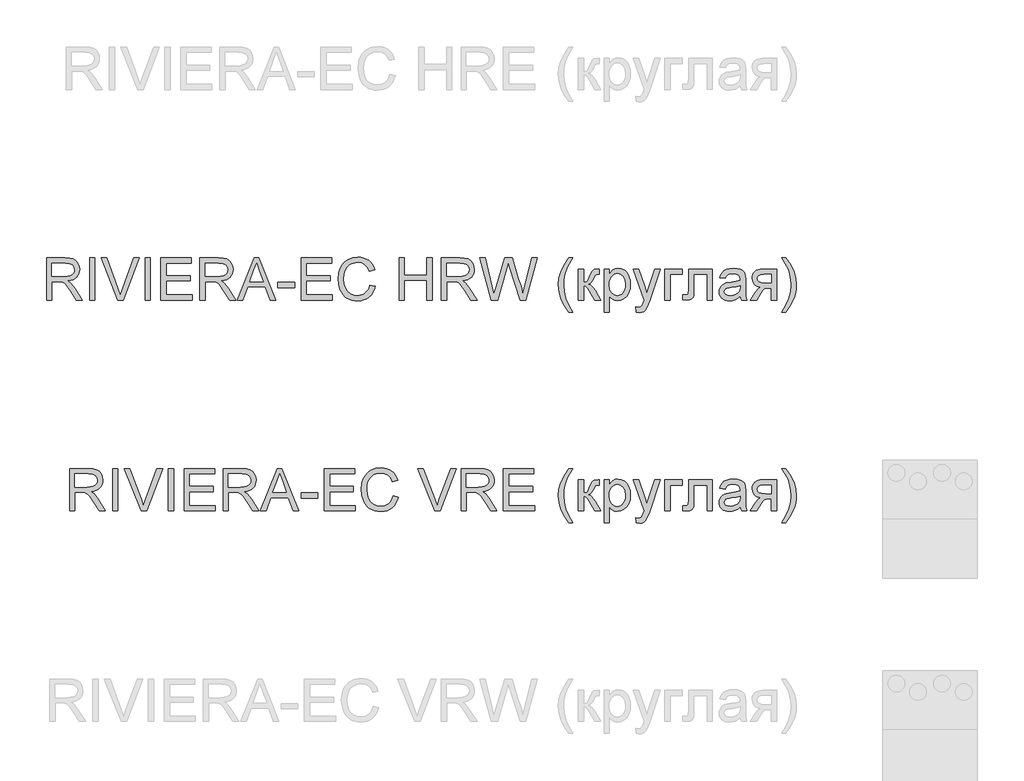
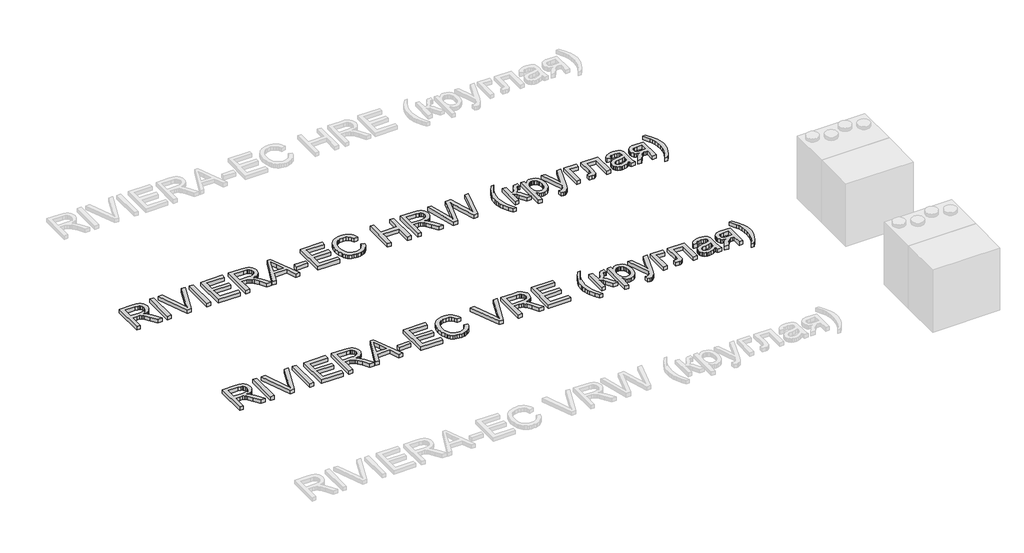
# One storey, part 3 of 28: 2 proxies.
"""IFC4 building model written with IfcOpenShell, lengths in millimetres."""

from ifc_helpers import new_model, si_unit, origin, origin_with_axes, place, context, project, spatial, polyline, outline, extrude, element, save

model = new_model("IFC4")

# Units and contexts
model_context = context("Model", 3, world=origin())
ifc_project = project(units=[si_unit("LENGTHUNIT", "METRE", prefix="MILLI")], contexts=[model_context])

# Site, building, storey
site = spatial("IfcSite", under=ifc_project)
building = spatial("IfcBuilding", under=site)
storey = spatial("IfcBuildingStorey", under=building, Name="Уровень 1", Elevation=0.0)

# Proxies
placement = place(None, origin())
element("IfcBuildingElementProxy", 1, Name="400 мм Arial", ObjectType="400 мм Arial", at=placement, inside=storey, context=model_context, shape_type="SweptSolid", body=[
    extrude(outline(polyline([(-29067.2775729, -16468.7253035), (-29067.2775729, -16066.9000629), (-28894.1277805, -16066.9000629), (-28847.5907081, -16069.6101269), (-28813.7333018, -16077.740319), (-28788.9871062, -16092.7499044), (-28769.7836661, -16116.0981484), (-28757.4596192, -16145.0504614), (-28753.3516036, -16176.872254), (-28755.0530579, -16197.5104339), (-28760.1574205, -16216.4563566), (-28768.6646917, -16233.7100222), (-28780.5748713, -16249.2714306), (-28796.0412435, -16262.6439411), (-28815.2170925, -16273.3309131), (-28838.1024183, -16281.3323465), (-28864.6972208, -16286.6482413), (-28836.149578, -16308.1325498), (-28795.4373039, -16359.8322329), (-28728.4337298, -16468.7253035), (-28786.8043397, -16468.7253035), (-28839.092634, -16385.4368198), (-28876.8618521, -16330.3035714), (-28890.9026816, -16314.2271282), (-28903.3984067, -16304.2575262), (-28927.286211, -16294.6925943), (-28956.422465, -16292.9267607), (-29017.0494178, -16292.9267607), (-29017.0494178, -16468.7253035), (-29067.2775729, -16468.7253035)]), holes=[polyline([(-29017.0494178, -16242.6986056), (-28904.6246801, -16242.6986056), (-28872.3369036, -16240.9205093), (-28847.2841397, -16235.5862204), (-28828.4240561, -16226.3401196), (-28814.7143204, -16212.8265876), (-28806.3633991, -16196.4803643), (-28803.5797587, -16178.7361894), (-28808.8895222, -16154.2352485), (-28824.8188126, -16134.4922481), (-28836.9803782, -16126.8954849), (-28852.2260212, -16121.4692255), (-28891.9695394, -16117.1282179), (-29017.0494178, -16117.1282179), (-29017.0494178, -16242.6986056)])]), origin_with_axes(), (0.0, 0.0, 1.0), 50.0),
    extrude(outline(polyline([(-28659.1738129, -16468.7253035), (-28659.1738129, -16066.9000629), (-28608.9456578, -16066.9000629), (-28608.9456578, -16468.7253035), (-28659.1738129, -16468.7253035)])), origin_with_axes(), (0.0, 0.0, 1.0), 50.0),
    extrude(outline(polyline([(-28389.7860905, -16468.7253035), (-28549.6921311, -16066.9000629), (-28495.9323089, -16066.9000629), (-28388.9031737, -16356.3986676), (-28367.2226615, -16421.6364081), (-28345.8364548, -16356.3986676), (-28238.5130141, -16066.9000629), (-28184.7531919, -16066.9000629), (-28337.8902037, -16468.7253035), (-28389.7860905, -16468.7253035)])), origin_with_axes(), (0.0, 0.0, 1.0), 50.0),
    extrude(outline(polyline([(-28131.7781846, -16468.7253035), (-28131.7781846, -16066.9000629), (-28081.5500295, -16066.9000629), (-28081.5500295, -16468.7253035), (-28131.7781846, -16468.7253035)])), origin_with_axes(), (0.0, 0.0, 1.0), 50.0),
    extrude(outline(polyline([(-27981.0937194, -16468.7253035), (-27981.0937194, -16066.9000629), (-27692.2818277, -16066.9000629), (-27692.2818277, -16117.1282179), (-27930.8655643, -16117.1282179), (-27930.8655643, -16236.4200862), (-27704.8388664, -16236.4200862), (-27704.8388664, -16286.6482413), (-27930.8655643, -16286.6482413), (-27930.8655643, -16418.4971484), (-27686.0033083, -16418.4971484), (-27686.0033083, -16468.7253035), (-27981.0937194, -16468.7253035)])), origin_with_axes(), (0.0, 0.0, 1.0), 50.0),
    extrude(outline(polyline([(-27610.6610757, -16468.7253035), (-27610.6610757, -16066.9000629), (-27437.5112833, -16066.9000629), (-27390.9742109, -16069.6101269), (-27357.1168046, -16077.740319), (-27332.3706091, -16092.7499044), (-27313.1671689, -16116.0981484), (-27300.8431221, -16145.0504614), (-27296.7351065, -16176.872254), (-27298.4365607, -16197.5104339), (-27303.5409234, -16216.4563566), (-27312.0481945, -16233.7100222), (-27323.9583741, -16249.2714306), (-27339.4247463, -16262.6439411), (-27358.6005953, -16273.3309131), (-27381.4859211, -16281.3323465), (-27408.0807237, -16286.6482413), (-27379.5330808, -16308.1325498), (-27338.8208067, -16359.8322329), (-27271.8172327, -16468.7253035), (-27330.1878426, -16468.7253035), (-27382.4761368, -16385.4368198), (-27420.245355, -16330.3035714), (-27434.2861845, -16314.2271282), (-27446.7819096, -16304.2575262), (-27470.6697138, -16294.6925943), (-27499.8059678, -16292.9267607), (-27560.4329206, -16292.9267607), (-27560.4329206, -16468.7253035), (-27610.6610757, -16468.7253035)]), holes=[polyline([(-27560.4329206, -16242.6986056), (-27448.0081829, -16242.6986056), (-27415.7204064, -16240.9205093), (-27390.6676426, -16235.5862204), (-27371.8075589, -16226.3401196), (-27358.0978233, -16212.8265876), (-27349.746902, -16196.4803643), (-27346.9632615, -16178.7361894), (-27352.273025, -16154.2352485), (-27368.2023154, -16134.4922481), (-27380.363881, -16126.8954849), (-27395.609524, -16121.4692255), (-27435.3530422, -16117.1282179), (-27560.4329206, -16117.1282179), (-27560.4329206, -16242.6986056)])]), origin_with_axes(), (0.0, 0.0, 1.0), 50.0),
    extrude(outline(polyline([(-27255.6304249, -16468.7253035), (-27095.233875, -16066.9000629), (-27052.4614617, -16066.9000629), (-26892.0649118, -16468.7253035), (-26945.1380209, -16468.7253035), (-26991.1477958, -16343.1549158), (-27156.6456427, -16343.1549158), (-27202.5573157, -16468.7253035), (-27255.6304249, -16468.7253035)]), holes=[polyline([(-27138.202492, -16292.9267607), (-27009.4928446, -16292.9267607), (-27045.692433, -16194.1381823), (-27073.8476683, -16117.1282179), (-27098.863644, -16185.5052181), (-27138.202492, -16292.9267607)])]), origin_with_axes(), (0.0, 0.0, 1.0), 50.0),
    extrude(outline(polyline([(-26869.7957883, -16349.4334352), (-26869.7957883, -16299.2052801), (-26712.8328037, -16299.2052801), (-26712.8328037, -16349.4334352), (-26869.7957883, -16349.4334352)])), origin_with_axes(), (0.0, 0.0, 1.0), 50.0),
    extrude(outline(polyline([(-26650.0476099, -16468.7253035), (-26650.0476099, -16066.9000629), (-26361.2357182, -16066.9000629), (-26361.2357182, -16117.1282179), (-26599.8194548, -16117.1282179), (-26599.8194548, -16236.4200862), (-26373.792757, -16236.4200862), (-26373.792757, -16286.6482413), (-26599.8194548, -16286.6482413), (-26599.8194548, -16418.4971484), (-26354.9571988, -16418.4971484), (-26354.9571988, -16468.7253035), (-26650.0476099, -16468.7253035)])), origin_with_axes(), (0.0, 0.0, 1.0), 50.0),
    extrude(outline(polyline([(-25997.0815939, -16325.8889875), (-25946.8534388, -16338.8384337), (-25956.7923841, -16370.0746808), (-25970.0300045, -16397.3684591), (-25986.5663002, -16420.7197688), (-26006.4012711, -16440.1286097), (-26029.0873275, -16455.3865155), (-26054.1768796, -16466.2850196), (-26081.6699273, -16472.824122), (-26111.5664708, -16475.0038229), (-26142.1957126, -16473.3544852), (-26169.8267161, -16468.4064724), (-26194.4594814, -16460.1597843), (-26216.0940084, -16448.6144211), (-26235.0276684, -16433.9420608), (-26251.5578327, -16416.3143819), (-26265.6845013, -16395.7313843), (-26277.4076742, -16372.1930679), (-26293.1898118, -16320.3217066), (-26298.4505244, -16264.7715253), (-26292.5030988, -16206.1801862), (-26285.0688168, -16179.882755), (-26274.660822, -16155.5841492), (-26261.5121064, -16133.6859734), (-26245.8556618, -16114.5898322), (-26227.6914883, -16098.2957255), (-26207.0195858, -16084.8036533), (-26184.5419959, -16074.2239803), (-26160.96076, -16066.6670709), (-26110.4873503, -16060.6215435), (-26081.7588321, -16062.5774494), (-26055.4154156, -16068.4451672), (-26031.4571007, -16078.224697), (-26009.8838873, -16091.9160385), (-25991.0513949, -16109.1574414), (-25975.3152425, -16129.5871548), (-25962.6754303, -16153.2051789), (-25953.1319582, -16180.0115137), (-26003.3601133, -16191.9799412), (-26020.7731944, -16155.3511572), (-26044.5628967, -16130.224817), (-26075.0235259, -16115.6934782), (-26112.4493876, -16110.8496986), (-26155.5896829, -16116.2207757), (-26174.2719569, -16122.9346221), (-26191.0289818, -16132.3340071), (-26217.9211556, -16157.4971355), (-26235.4200758, -16190.0179039), (-26245.0217959, -16226.781578), (-26248.2223693, -16264.6734235), (-26244.4331847, -16311.0756058), (-26233.0656311, -16351.1992687), (-26213.6905127, -16383.5115707), (-26185.8786338, -16406.4796699), (-26152.5362623, -16420.2016683), (-26116.5696659, -16424.7756678), (-26094.7328038, -16423.2183007), (-26074.6433812, -16418.5461993), (-26056.3013981, -16410.7593638), (-26039.7068544, -16399.857794), (-26025.2521577, -16385.8905409), (-26013.3297154, -16368.9066554), (-26003.9395274, -16348.9061376), (-25997.0815939, -16325.8889875)])), origin_with_axes(), (0.0, 0.0, 1.0), 50.0),
    extrude(outline(polyline([(-25720.826741, -16468.7253035), (-25720.826741, -16066.9000629), (-25670.5985859, -16066.9000629), (-25670.5985859, -16230.1415669), (-25457.1289268, -16230.1415669), (-25457.1289268, -16066.9000629), (-25406.9007718, -16066.9000629), (-25406.9007718, -16468.7253035), (-25457.1289268, -16468.7253035), (-25457.1289268, -16280.3697219), (-25670.5985859, -16280.3697219), (-25670.5985859, -16468.7253035), (-25720.826741, -16468.7253035)])), origin_with_axes(), (0.0, 0.0, 1.0), 50.0),
    extrude(outline(polyline([(-25319.0015004, -16468.7253035), (-25319.0015004, -16066.9000629), (-25145.851708, -16066.9000629), (-25099.3146356, -16069.6101269), (-25065.4572293, -16077.740319), (-25040.7110338, -16092.7499044), (-25021.5075936, -16116.0981484), (-25009.1835468, -16145.0504614), (-25005.0755312, -16176.872254), (-25006.7769854, -16197.5104339), (-25011.8813481, -16216.4563566), (-25020.3886192, -16233.7100222), (-25032.2987988, -16249.2714306), (-25047.765171, -16262.6439411), (-25066.94102, -16273.3309131), (-25089.8263458, -16281.3323465), (-25116.4211484, -16286.6482413), (-25087.8735056, -16308.1325498), (-25047.1612314, -16359.8322329), (-24980.1576574, -16468.7253035), (-25038.5282673, -16468.7253035), (-25090.8165615, -16385.4368198), (-25128.5857797, -16330.3035714), (-25142.6266092, -16314.2271282), (-25155.1223343, -16304.2575262), (-25179.0101385, -16294.6925943), (-25208.1463925, -16292.9267607), (-25268.7733453, -16292.9267607), (-25268.7733453, -16468.7253035), (-25319.0015004, -16468.7253035)]), holes=[polyline([(-25268.7733453, -16242.6986056), (-25156.3486076, -16242.6986056), (-25124.0608311, -16240.9205093), (-25099.0080673, -16235.5862204), (-25080.1479837, -16226.3401196), (-25066.438248, -16212.8265876), (-25058.0873267, -16196.4803643), (-25055.3036863, -16178.7361894), (-25060.6134497, -16154.2352485), (-25076.5427401, -16134.4922481), (-25088.7043057, -16126.8954849), (-25103.9499487, -16121.4692255), (-25143.693467, -16117.1282179), (-25268.7733453, -16117.1282179), (-25268.7733453, -16242.6986056)])]), origin_with_axes(), (0.0, 0.0, 1.0), 50.0),
    extrude(outline(polyline([(-24845.2675925, -16468.7253035), (-24954.8473761, -16066.9000629), (-24903.0495912, -16066.9000629), (-24839.4795824, -16330.9902845), (-24819.8592093, -16412.5129346), (-24798.8654101, -16340.4080635), (-24719.2066955, -16066.9000629), (-24644.5511759, -16066.9000629), (-24586.6710753, -16265.1639328), (-24561.8758289, -16338.7403318), (-24543.6043564, -16412.5129346), (-24524.5725945, -16333.3447292), (-24460.4139746, -16066.9000629), (-24408.6161897, -16066.9000629), (-24518.2940752, -16468.7253035), (-24571.9557955, -16468.7253035), (-24668.2918273, -16158.7234089), (-24681.7317829, -16115.4604862), (-24696.8394702, -16167.5525767), (-24784.6406397, -16468.7253035), (-24845.2675925, -16468.7253035)])), origin_with_axes(), (0.0, 0.0, 1.0), 50.0),
    extrude(outline(polyline([(-24107.2472592, -16581.7386524), (-24146.1691743, -16527.1204388), (-24178.5673153, -16463.9183121), (-24191.3144265, -16429.864702), (-24200.4195059, -16395.1979554), (-24205.8825535, -16359.918072), (-24207.7035694, -16324.025052), (-24202.2589158, -16261.6077402), (-24185.9249552, -16201.8882296), (-24153.5022887, -16134.2469935), (-24107.2472592, -16066.9000629), (-24069.5761429, -16066.9000629), (-24116.5669364, -16146.4606757), (-24132.6065914, -16184.2298939), (-24144.8202737, -16223.5687419), (-24154.3116291, -16273.8214224), (-24157.4754143, -16324.3193576), (-24151.9817098, -16388.7109695), (-24135.5005964, -16453.0780559), (-24108.0320741, -16517.4206169), (-24069.5761429, -16581.7386524), (-24107.2472592, -16581.7386524)])), origin_with_axes(), (0.0, 0.0, 1.0), 50.0),
    extrude(outline(polyline([(-24019.3479878, -16173.6348924), (-23969.1198328, -16173.6348924), (-23969.1198328, -16299.2052801), (-23948.6901193, -16296.9489372), (-23935.4708929, -16290.1799085), (-23923.7722455, -16272.5215727), (-23907.9042688, -16237.5973086), (-23884.9974832, -16192.2251959), (-23875.5551787, -16183.0649342), (-23864.7884989, -16177.4608652), (-23828.0493503, -16173.6348924), (-23818.4353675, -16173.6348924), (-23818.4353675, -16224.1573531), (-23831.973425, -16223.8630475), (-23847.6697234, -16225.1874227), (-23856.4988913, -16229.1605482), (-23873.7648196, -16262.2208768), (-23884.3720838, -16284.2570084), (-23894.0228548, -16297.9790068), (-23905.7092395, -16307.1392685), (-23922.4233448, -16315.4901897), (-23906.5063172, -16322.5596554), (-23890.7364423, -16335.0369864), (-23875.1137203, -16352.9221828), (-23859.638151, -16376.2152444), (-23805.8783288, -16468.7253035), (-23862.9736144, -16468.7253035), (-23915.6543161, -16378.1772817), (-23929.8790866, -16354.081011), (-23942.1418198, -16339.8685033), (-23954.5271803, -16332.9155336), (-23969.1198328, -16330.597877), (-23969.1198328, -16468.7253035), (-24019.3479878, -16468.7253035), (-24019.3479878, -16173.6348924)])), origin_with_axes(), (0.0, 0.0, 1.0), 50.0),
    extrude(outline(polyline([(-23774.4857318, -16581.7386524), (-23774.4857318, -16173.6348924), (-23724.2575768, -16173.6348924), (-23724.2575768, -16222.8820288), (-23707.8745653, -16198.5895544), (-23689.5295164, -16181.237787), (-23668.1433098, -16170.8267265), (-23642.6368248, -16167.356373), (-23608.6690539, -16172.2124154), (-23578.9687141, -16186.7805424), (-23554.7866043, -16210.1778373), (-23537.3735232, -16241.5213832), (-23526.8520982, -16278.530312), (-23523.3449565, -16318.923755), (-23527.3058193, -16361.8801093), (-23539.1884077, -16400.2992524), (-23558.6125771, -16432.2314095), (-23585.1981826, -16455.7268063), (-23616.1615839, -16470.1845687), (-23648.7191404, -16475.0038229), (-23671.809867, -16471.778724), (-23692.4235215, -16462.1034276), (-23710.0695945, -16447.4985123), (-23724.2575768, -16429.4845573), (-23724.2575768, -16581.7386524), (-23774.4857318, -16581.7386524)]), holes=[polyline([(-23724.2575768, -16323.5345427), (-23718.825186, -16368.5632989), (-23712.0346975, -16386.0009055), (-23702.5280136, -16400.0539977), (-23678.4807938, -16418.5952503), (-23664.7189415, -16423.2305634), (-23649.7982609, -16424.7756678), (-23634.6629825, -16423.1753811), (-23620.6497442, -16418.3745211), (-23607.7585459, -16410.3730877), (-23595.9893878, -16399.1710809), (-23586.1822669, -16384.6090853), (-23579.1771806, -16366.5276852), (-23574.9741288, -16344.9268807), (-23573.5731115, -16319.8066718), (-23579.0422905, -16275.0231703), (-23585.8787643, -16257.4506736), (-23595.4498275, -16243.0910131), (-23619.4602591, -16223.9611493), (-23633.0657615, -16219.1786834), (-23647.7381218, -16217.5845281), (-23662.3644968, -16219.279851), (-23676.1263491, -16224.3658195), (-23701.0564856, -16244.7096939), (-23711.206963, -16259.8081841), (-23718.457304, -16277.978489), (-23722.8075086, -16299.2206085), (-23724.2575768, -16323.5345427)])]), origin_with_axes(), (0.0, 0.0, 1.0), 50.0),
    extrude(outline(polyline([(-23466.838282, -16581.7386524), (-23473.1168014, -16533.3744328), (-23447.6103164, -16537.7890167), (-23434.1948863, -16536.4033278), (-23423.7715631, -16532.2462613), (-23409.1543852, -16516.7952175), (-23395.420124, -16479.8108143), (-23391.4960494, -16467.6461829), (-23498.2308789, -16173.6348924), (-23445.2558716, -16173.6348924), (-23388.6510953, -16337.4650076), (-23368.9326204, -16402.9970537), (-23349.2141454, -16345.1169531), (-23291.0397392, -16173.6348924), (-23238.4571394, -16173.6348924), (-23341.1697925, -16475.7886378), (-23367.8534998, -16541.3206838), (-23381.5141846, -16562.2409066), (-23396.9897539, -16576.7354573), (-23414.9669207, -16585.1967431), (-23436.1323981, -16588.0171718), (-23466.838282, -16581.7386524)])), origin_with_axes(), (0.0, 0.0, 1.0), 50.0),
    extrude(outline(polyline([(-23196.8619485, -16173.6348924), (-23033.6204445, -16173.6348924), (-23033.6204445, -16223.8630475), (-23146.6337934, -16223.8630475), (-23146.6337934, -16468.7253035), (-23196.8619485, -16468.7253035), (-23196.8619485, -16173.6348924)])), origin_with_axes(), (0.0, 0.0, 1.0), 50.0),
    extrude(outline(polyline([(-22970.8352506, -16173.6348924), (-22744.8085528, -16173.6348924), (-22744.8085528, -16468.4309979), (-22795.0367079, -16468.4309979), (-22795.0367079, -16223.8630475), (-22920.6070956, -16223.8630475), (-22920.6070956, -16364.6392243), (-22923.9916099, -16429.5826592), (-22930.331443, -16444.2856763), (-22942.5819134, -16457.0021306), (-22961.1722169, -16465.7945102), (-22986.5315491, -16468.7253035), (-23027.3419251, -16466.174655), (-23027.3419251, -16418.4971484), (-23004.8765979, -16418.4971484), (-22982.1660161, -16415.4069396), (-22973.0915936, -16405.5967531), (-22970.8352506, -16361.7942702), (-22970.8352506, -16173.6348924)])), origin_with_axes(), (0.0, 0.0, 1.0), 50.0),
    extrude(outline(polyline([(-22481.1107387, -16431.0541872), (-22505.1089075, -16451.6310534), (-22529.8183148, -16465.0955344), (-22555.8030464, -16472.5267508), (-22583.627188, -16475.0038229), (-22605.9913476, -16473.5139008), (-22625.6025236, -16469.0441345), (-22642.4607161, -16461.5945241), (-22656.5659249, -16451.1650696), (-22667.7035523, -16438.4179584), (-22675.6590005, -16424.0153783), (-22680.4322693, -16407.9573292), (-22682.023359, -16390.2438112), (-22679.6198633, -16369.4216902), (-22672.4093762, -16350.5125557), (-22661.2870772, -16334.3257479), (-22647.1481458, -16321.6706073), (-22630.5321424, -16312.1056754), (-22611.9786271, -16305.1894939), (-22568.5195007, -16297.6356502), (-22517.1631742, -16289.6893991), (-22481.4050443, -16280.3697219), (-22481.1107387, -16269.1861093), (-22484.5688294, -16246.769833), (-22494.9431017, -16232.1036042), (-22518.1441928, -16221.2142971), (-22550.4687575, -16217.5845281), (-22580.3898264, -16220.0002865), (-22601.2855238, -16227.2475618), (-22615.5348197, -16240.6507292), (-22625.5166845, -16261.5341638), (-22675.7448396, -16255.2556444), (-22667.0260363, -16227.7871221), (-22654.0152764, -16206.2047117), (-22635.4985493, -16189.6990729), (-22610.2618444, -16177.4608652), (-22579.396545, -16169.8824961), (-22543.9940344, -16167.356373), (-22510.0385262, -16169.5881905), (-22483.1218269, -16176.2836428), (-22462.8270035, -16186.3513467), (-22448.7371231, -16198.699919), (-22439.3929204, -16213.9670218), (-22433.3351302, -16232.7903172), (-22430.8825836, -16276.7399529), (-22430.8825836, -16339.2308412), (-22428.3319351, -16426.4924504), (-22418.3255448, -16468.7253035), (-22468.5536999, -16468.7253035), (-22476.5980529, -16451.2631714), (-22481.1107387, -16431.0541872)]), holes=[polyline([(-22481.1107387, -16330.597877), (-22514.8577804, -16338.961061), (-22562.1428795, -16345.9998699), (-22605.3567512, -16354.1423247), (-22616.6016775, -16359.7096056), (-22624.9280733, -16367.3860765), (-22630.0784212, -16376.5831264), (-22631.7952039, -16386.712144), (-22628.0550703, -16401.648153), (-22616.8346694, -16413.8863607), (-22598.379256, -16422.053341), (-22572.9340847, -16424.7756678), (-22545.9560717, -16421.7712981), (-22522.1173184, -16412.7581893), (-22502.7912509, -16399.4776492), (-22489.3512954, -16383.6709862), (-22483.391607, -16367.3860765), (-22481.4050443, -16344.8226475), (-22481.1107387, -16330.597877)])]), origin_with_axes(), (0.0, 0.0, 1.0), 50.0),
    extrude(outline(polyline([(-22135.7921725, -16173.6348924), (-22135.7921725, -16468.7253035), (-22186.0203276, -16468.7253035), (-22186.0203276, -16355.7119545), (-22213.390748, -16355.7119545), (-22235.2184131, -16357.3061099), (-22250.6694569, -16362.0885758), (-22265.556415, -16375.9945152), (-22285.6918228, -16404.959091), (-22325.7173839, -16468.7253035), (-22383.7936882, -16468.7253035), (-22333.3693294, -16388.0855701), (-22311.100206, -16359.1455198), (-22290.5969161, -16346.2941755), (-22324.932569, -16335.7727504), (-22338.2744227, -16326.9619766), (-22349.0656279, -16315.7844953), (-22363.3394493, -16289.1988898), (-22368.0973897, -16258.8854134), (-22366.4725776, -16240.797882), (-22361.5981412, -16224.5007096), (-22353.4740804, -16209.9938963), (-22342.1003954, -16197.277442), (-22327.6487644, -16186.9338265), (-22310.2908656, -16179.5455298), (-22290.026699, -16175.1125517), (-22266.8562647, -16173.6348924), (-22135.7921725, -16173.6348924)]), holes=[polyline([(-22186.0203276, -16223.8630475), (-22252.2390867, -16223.8630475), (-22286.4398496, -16226.7693152), (-22305.8517562, -16235.4881185), (-22314.864865, -16248.106471), (-22317.8692347, -16262.7113862), (-22313.442388, -16281.8535127), (-22300.161848, -16295.1340527), (-22275.6241189, -16302.8963628), (-22237.4257051, -16305.4837995), (-22186.0203276, -16305.4837995), (-22186.0203276, -16223.8630475)])]), origin_with_axes(), (0.0, 0.0, 1.0), 50.0),
    extrude(outline(polyline([(-22047.8929011, -16581.7386524), (-22085.5640175, -16581.7386524), (-22047.1080862, -16517.4206169), (-22019.6395639, -16453.0780559), (-22003.1584505, -16388.7109695), (-21997.6647461, -16324.3193576), (-22000.8285312, -16274.1893044), (-22010.3198867, -16224.4516587), (-22022.3128397, -16185.0392343), (-22038.2789183, -16147.2454906), (-22085.5640175, -16066.9000629), (-22047.8929011, -16066.9000629), (-22001.6378716, -16134.2469935), (-21969.2152051, -16201.8882296), (-21952.8812445, -16261.6077402), (-21947.436591, -16324.025052), (-21949.2668039, -16359.918072), (-21954.7574427, -16395.1979554), (-21963.9085073, -16429.864702), (-21976.7199978, -16463.9183121), (-22009.1549271, -16527.1204388), (-22047.8929011, -16581.7386524)])), origin_with_axes(), (0.0, 0.0, 1.0), 50.0),
])
element("IfcBuildingElementProxy", 2, Name="400 мм Arial", ObjectType="400 мм Arial", at=placement, inside=storey, context=model_context, shape_type="SweptSolid", body=[
    extrude(outline(polyline([(-28847.5293944, -18468.7413481), (-28847.5293944, -18066.9161075), (-28674.379602, -18066.9161075), (-28627.8425296, -18069.6261715), (-28593.9851233, -18077.7563636), (-28569.2389278, -18092.765949), (-28550.0354876, -18116.114193), (-28537.7114408, -18145.066506), (-28533.6034252, -18176.8882986), (-28535.3048794, -18197.5264785), (-28540.4092421, -18216.4724013), (-28548.9165132, -18233.7260668), (-28560.8266928, -18249.2874752), (-28576.293065, -18262.6599857), (-28595.468914, -18273.3469577), (-28618.3542398, -18281.3483911), (-28644.9490424, -18286.6642859), (-28616.4013996, -18308.1485944), (-28575.6891254, -18359.8482775), (-28508.6855514, -18468.7413481), (-28567.0561613, -18468.7413481), (-28619.3444555, -18385.4528644), (-28657.1136737, -18330.319616), (-28671.1545032, -18314.2431728), (-28683.6502283, -18304.2735708), (-28707.5380325, -18294.7086389), (-28736.6742865, -18292.9428053), (-28797.3012393, -18292.9428053), (-28797.3012393, -18468.7413481), (-28847.5293944, -18468.7413481)]), holes=[polyline([(-28797.3012393, -18242.7146502), (-28684.8765016, -18242.7146502), (-28652.5887252, -18240.9365539), (-28627.5359613, -18235.602265), (-28608.6758777, -18226.3561642), (-28594.966142, -18212.8426322), (-28586.6152207, -18196.4964089), (-28583.8315803, -18178.752234), (-28589.1413437, -18154.2512931), (-28605.0706341, -18134.5082927), (-28617.2321997, -18126.9115295), (-28632.4778428, -18121.4852701), (-28672.221361, -18117.1442626), (-28797.3012393, -18117.1442626), (-28797.3012393, -18242.7146502)])]), origin_with_axes(), (0.0, 0.0, 1.0), 50.0),
    extrude(outline(polyline([(-28439.4256344, -18468.7413481), (-28439.4256344, -18066.9161075), (-28389.1974793, -18066.9161075), (-28389.1974793, -18468.7413481), (-28439.4256344, -18468.7413481)])), origin_with_axes(), (0.0, 0.0, 1.0), 50.0),
    extrude(outline(polyline([(-28170.0379121, -18468.7413481), (-28329.9439527, -18066.9161075), (-28276.1841304, -18066.9161075), (-28169.1549953, -18356.4147122), (-28147.474483, -18421.6524527), (-28126.0882764, -18356.4147122), (-28018.7648357, -18066.9161075), (-27965.0050134, -18066.9161075), (-28118.1420253, -18468.7413481), (-28170.0379121, -18468.7413481)])), origin_with_axes(), (0.0, 0.0, 1.0), 50.0),
    extrude(outline(polyline([(-27912.0300061, -18468.7413481), (-27912.0300061, -18066.9161075), (-27861.8018511, -18066.9161075), (-27861.8018511, -18468.7413481), (-27912.0300061, -18468.7413481)])), origin_with_axes(), (0.0, 0.0, 1.0), 50.0),
    extrude(outline(polyline([(-27761.3455409, -18468.7413481), (-27761.3455409, -18066.9161075), (-27472.5336492, -18066.9161075), (-27472.5336492, -18117.1442626), (-27711.1173858, -18117.1442626), (-27711.1173858, -18236.4361309), (-27485.090688, -18236.4361309), (-27485.090688, -18286.6642859), (-27711.1173858, -18286.6642859), (-27711.1173858, -18418.513193), (-27466.2551298, -18418.513193), (-27466.2551298, -18468.7413481), (-27761.3455409, -18468.7413481)])), origin_with_axes(), (0.0, 0.0, 1.0), 50.0),
    extrude(outline(polyline([(-27390.9128972, -18468.7413481), (-27390.9128972, -18066.9161075), (-27217.7631048, -18066.9161075), (-27171.2260324, -18069.6261715), (-27137.3686262, -18077.7563636), (-27112.6224306, -18092.765949), (-27093.4189905, -18116.114193), (-27081.0949436, -18145.066506), (-27076.986928, -18176.8882986), (-27078.6883822, -18197.5264785), (-27083.7927449, -18216.4724013), (-27092.3000161, -18233.7260668), (-27104.2101957, -18249.2874752), (-27119.6765679, -18262.6599857), (-27138.8524169, -18273.3469577), (-27161.7377427, -18281.3483911), (-27188.3325452, -18286.6642859), (-27159.7849024, -18308.1485944), (-27119.0726283, -18359.8482775), (-27052.0690542, -18468.7413481), (-27110.4396641, -18468.7413481), (-27162.7279584, -18385.4528644), (-27200.4971765, -18330.319616), (-27214.538006, -18314.2431728), (-27227.0337311, -18304.2735708), (-27250.9215353, -18294.7086389), (-27280.0577893, -18292.9428053), (-27340.6847422, -18292.9428053), (-27340.6847422, -18468.7413481), (-27390.9128972, -18468.7413481)]), holes=[polyline([(-27340.6847422, -18242.7146502), (-27228.2600044, -18242.7146502), (-27195.972228, -18240.9365539), (-27170.9194641, -18235.602265), (-27152.0593805, -18226.3561642), (-27138.3496448, -18212.8426322), (-27129.9987235, -18196.4964089), (-27127.2150831, -18178.752234), (-27132.5248466, -18154.2512931), (-27148.4541369, -18134.5082927), (-27160.6157026, -18126.9115295), (-27175.8613456, -18121.4852701), (-27215.6048638, -18117.1442626), (-27340.6847422, -18117.1442626), (-27340.6847422, -18242.7146502)])]), origin_with_axes(), (0.0, 0.0, 1.0), 50.0),
    extrude(outline(polyline([(-27035.8822464, -18468.7413481), (-26875.4856965, -18066.9161075), (-26832.7132832, -18066.9161075), (-26672.3167333, -18468.7413481), (-26725.3898425, -18468.7413481), (-26771.3996174, -18343.1709604), (-26936.8974642, -18343.1709604), (-26982.8091372, -18468.7413481), (-27035.8822464, -18468.7413481)]), holes=[polyline([(-26918.4543136, -18292.9428053), (-26789.7446662, -18292.9428053), (-26825.9442545, -18194.1542269), (-26854.0994899, -18117.1442626), (-26879.1154655, -18185.5212627), (-26918.4543136, -18292.9428053)])]), origin_with_axes(), (0.0, 0.0, 1.0), 50.0),
    extrude(outline(polyline([(-26650.0476099, -18349.4494798), (-26650.0476099, -18299.2213247), (-26493.0846253, -18299.2213247), (-26493.0846253, -18349.4494798), (-26650.0476099, -18349.4494798)])), origin_with_axes(), (0.0, 0.0, 1.0), 50.0),
    extrude(outline(polyline([(-26430.2994314, -18468.7413481), (-26430.2994314, -18066.9161075), (-26141.4875397, -18066.9161075), (-26141.4875397, -18117.1442626), (-26380.0712763, -18117.1442626), (-26380.0712763, -18236.4361309), (-26154.0445785, -18236.4361309), (-26154.0445785, -18286.6642859), (-26380.0712763, -18286.6642859), (-26380.0712763, -18418.513193), (-26135.2090204, -18418.513193), (-26135.2090204, -18468.7413481), (-26430.2994314, -18468.7413481)])), origin_with_axes(), (0.0, 0.0, 1.0), 50.0),
    extrude(outline(polyline([(-25777.3334155, -18325.9050321), (-25727.1052604, -18338.8544783), (-25737.0442056, -18370.0907254), (-25750.2818261, -18397.3845037), (-25766.8181218, -18420.7358134), (-25786.6530927, -18440.1446543), (-25809.339149, -18455.4025601), (-25834.4287011, -18466.3010642), (-25861.9217489, -18472.8401666), (-25891.8182924, -18475.0198675), (-25922.4475341, -18473.3705298), (-25950.0785377, -18468.422517), (-25974.7113029, -18460.175829), (-25996.3458299, -18448.6304657), (-26015.2794899, -18433.9581054), (-26031.8096542, -18416.3304265), (-26045.9363229, -18395.7474289), (-26057.6594958, -18372.2091125), (-26073.4416334, -18320.3377512), (-26078.7023459, -18264.7875699), (-26072.7549203, -18206.1962309), (-26065.3206383, -18179.8987996), (-26054.9126435, -18155.6001938), (-26041.7639279, -18133.702018), (-26026.1074833, -18114.6058768), (-26007.9433098, -18098.3117701), (-25987.2714074, -18084.8196979), (-25964.7938175, -18074.2400249), (-25941.2125816, -18066.6831155), (-25890.7391718, -18060.6375881), (-25862.0106537, -18062.593494), (-25835.6672372, -18068.4612119), (-25811.7089222, -18078.2407416), (-25790.1357089, -18091.9320831), (-25771.3032164, -18109.173486), (-25755.5670641, -18129.6031995), (-25742.9272519, -18153.2212235), (-25733.3837798, -18180.0275583), (-25783.6119348, -18191.9959858), (-25801.0250159, -18155.3672019), (-25824.8147183, -18130.2408616), (-25855.2753475, -18115.7095228), (-25892.7012091, -18110.8657432), (-25935.8415044, -18116.2368203), (-25954.5237784, -18122.9506667), (-25971.2808033, -18132.3500517), (-25998.1729772, -18157.5131802), (-26015.6718974, -18190.0339485), (-26025.2736175, -18226.7976226), (-26028.4741908, -18264.6894681), (-26024.6850063, -18311.0916504), (-26013.3174526, -18351.2153134), (-25993.9423342, -18383.5276153), (-25966.1304554, -18406.4957145), (-25932.7880839, -18420.2177129), (-25896.8214875, -18424.7917124), (-25874.9846254, -18423.2343453), (-25854.8952028, -18418.5622439), (-25836.5532196, -18410.7754084), (-25819.958676, -18399.8738386), (-25805.5039792, -18385.9065855), (-25793.5815369, -18368.9227001), (-25784.191349, -18348.9221822), (-25777.3334155, -18325.9050321)])), origin_with_axes(), (0.0, 0.0, 1.0), 50.0),
    extrude(outline(polyline([(-25382.3753054, -18468.7413481), (-25542.281346, -18066.9161075), (-25488.5215238, -18066.9161075), (-25381.4923886, -18356.4147122), (-25359.8118764, -18421.6524527), (-25338.4256697, -18356.4147122), (-25231.102229, -18066.9161075), (-25177.3424068, -18066.9161075), (-25330.4794186, -18468.7413481), (-25382.3753054, -18468.7413481)])), origin_with_axes(), (0.0, 0.0, 1.0), 50.0),
    extrude(outline(polyline([(-25130.6459189, -18468.7413481), (-25130.6459189, -18066.9161075), (-24957.4961265, -18066.9161075), (-24910.9590541, -18069.6261715), (-24877.1016478, -18077.7563636), (-24852.3554522, -18092.765949), (-24833.1520121, -18116.114193), (-24820.8279653, -18145.066506), (-24816.7199496, -18176.8882986), (-24818.4214039, -18197.5264785), (-24823.5257666, -18216.4724013), (-24832.0330377, -18233.7260668), (-24843.9432173, -18249.2874752), (-24859.4095895, -18262.6599857), (-24878.5854385, -18273.3469577), (-24901.4707643, -18281.3483911), (-24928.0655669, -18286.6642859), (-24899.517924, -18308.1485944), (-24858.8056499, -18359.8482775), (-24791.8020758, -18468.7413481), (-24850.1726857, -18468.7413481), (-24902.46098, -18385.4528644), (-24940.2301982, -18330.319616), (-24954.2710276, -18314.2431728), (-24966.7667527, -18304.2735708), (-24990.654557, -18294.7086389), (-25019.790811, -18292.9428053), (-25080.4177638, -18292.9428053), (-25080.4177638, -18468.7413481), (-25130.6459189, -18468.7413481)]), holes=[polyline([(-25080.4177638, -18242.7146502), (-24967.9930261, -18242.7146502), (-24935.7052496, -18240.9365539), (-24910.6524857, -18235.602265), (-24891.7924021, -18226.3561642), (-24878.0826664, -18212.8426322), (-24869.7317452, -18196.4964089), (-24866.9481047, -18178.752234), (-24872.2578682, -18154.2512931), (-24888.1871586, -18134.5082927), (-24900.3487242, -18126.9115295), (-24915.5943672, -18121.4852701), (-24955.3378854, -18117.1442626), (-25080.4177638, -18117.1442626), (-25080.4177638, -18242.7146502)])]), origin_with_axes(), (0.0, 0.0, 1.0), 50.0),
    extrude(outline(polyline([(-24728.8206783, -18468.7413481), (-24728.8206783, -18066.9161075), (-24440.0087866, -18066.9161075), (-24440.0087866, -18117.1442626), (-24678.5925232, -18117.1442626), (-24678.5925232, -18236.4361309), (-24452.5658254, -18236.4361309), (-24452.5658254, -18286.6642859), (-24678.5925232, -18286.6642859), (-24678.5925232, -18418.513193), (-24433.7302672, -18418.513193), (-24433.7302672, -18468.7413481), (-24728.8206783, -18468.7413481)])), origin_with_axes(), (0.0, 0.0, 1.0), 50.0),
    extrude(outline(polyline([(-24107.2472592, -18581.754697), (-24146.1691743, -18527.1364834), (-24178.5673153, -18463.9343567), (-24191.3144265, -18429.8807467), (-24200.4195059, -18395.214), (-24205.8825535, -18359.9341166), (-24207.7035694, -18324.0410966), (-24202.2589158, -18261.6237848), (-24185.9249552, -18201.9042742), (-24153.5022887, -18134.2630381), (-24107.2472592, -18066.9161075), (-24069.5761429, -18066.9161075), (-24116.5669364, -18146.4767203), (-24132.6065914, -18184.2459385), (-24144.8202737, -18223.5847865), (-24154.3116291, -18273.837467), (-24157.4754143, -18324.3354022), (-24151.9817098, -18388.7270141), (-24135.5005964, -18453.0941005), (-24108.0320741, -18517.4366615), (-24069.5761429, -18581.754697), (-24107.2472592, -18581.754697)])), origin_with_axes(), (0.0, 0.0, 1.0), 50.0),
    extrude(outline(polyline([(-24019.3479878, -18173.650937), (-23969.1198328, -18173.650937), (-23969.1198328, -18299.2213247), (-23948.6901193, -18296.9649818), (-23935.4708929, -18290.1959531), (-23923.7722455, -18272.5376173), (-23907.9042688, -18237.6133532), (-23884.9974832, -18192.2412405), (-23875.5551787, -18183.0809788), (-23864.7884989, -18177.4769098), (-23828.0493503, -18173.650937), (-23818.4353675, -18173.650937), (-23818.4353675, -18224.1733977), (-23831.973425, -18223.8790921), (-23847.6697234, -18225.2034673), (-23856.4988913, -18229.1765928), (-23873.7648196, -18262.2369214), (-23884.3720838, -18284.273053), (-23894.0228548, -18297.9950514), (-23905.7092395, -18307.1553131), (-23922.4233448, -18315.5062344), (-23906.5063172, -18322.5757), (-23890.7364423, -18335.053031), (-23875.1137203, -18352.9382274), (-23859.638151, -18376.231289), (-23805.8783288, -18468.7413481), (-23862.9736144, -18468.7413481), (-23915.6543161, -18378.1933263), (-23929.8790866, -18354.0970556), (-23942.1418198, -18339.8845479), (-23954.5271803, -18332.9315782), (-23969.1198328, -18330.6139216), (-23969.1198328, -18468.7413481), (-24019.3479878, -18468.7413481), (-24019.3479878, -18173.650937)])), origin_with_axes(), (0.0, 0.0, 1.0), 50.0),
    extrude(outline(polyline([(-23774.4857318, -18581.754697), (-23774.4857318, -18173.650937), (-23724.2575768, -18173.650937), (-23724.2575768, -18222.8980734), (-23707.8745653, -18198.605599), (-23689.5295164, -18181.2538316), (-23668.1433098, -18170.8427711), (-23642.6368248, -18167.3724176), (-23608.6690539, -18172.22846), (-23578.9687141, -18186.796587), (-23554.7866043, -18210.1938819), (-23537.3735232, -18241.5374279), (-23526.8520982, -18278.5463566), (-23523.3449565, -18318.9397996), (-23527.3058193, -18361.8961539), (-23539.1884077, -18400.315297), (-23558.6125771, -18432.2474542), (-23585.1981826, -18455.7428509), (-23616.1615839, -18470.2006133), (-23648.7191404, -18475.0198675), (-23671.809867, -18471.7947686), (-23692.4235215, -18462.1194722), (-23710.0695945, -18447.514557), (-23724.2575768, -18429.5006019), (-23724.2575768, -18581.754697), (-23774.4857318, -18581.754697)]), holes=[polyline([(-23724.2575768, -18323.5505873), (-23718.825186, -18368.5793435), (-23712.0346975, -18386.0169501), (-23702.5280136, -18400.0700423), (-23678.4807938, -18418.6112949), (-23664.7189415, -18423.246608), (-23649.7982609, -18424.7917124), (-23634.6629825, -18423.1914257), (-23620.6497442, -18418.3905657), (-23607.7585459, -18410.3891323), (-23595.9893878, -18399.1871255), (-23586.1822669, -18384.6251299), (-23579.1771806, -18366.5437298), (-23574.9741288, -18344.9429253), (-23573.5731115, -18319.8227164), (-23579.0422905, -18275.0392149), (-23585.8787643, -18257.4667182), (-23595.4498275, -18243.1070577), (-23619.4602591, -18223.977194), (-23633.0657615, -18219.194728), (-23647.7381218, -18217.6005727), (-23662.3644968, -18219.2958956), (-23676.1263491, -18224.3818641), (-23701.0564856, -18244.7257385), (-23711.206963, -18259.8242287), (-23718.457304, -18277.9945336), (-23722.8075086, -18299.2366531), (-23724.2575768, -18323.5505873)])]), origin_with_axes(), (0.0, 0.0, 1.0), 50.0),
    extrude(outline(polyline([(-23466.838282, -18581.754697), (-23473.1168014, -18533.3904774), (-23447.6103164, -18537.8050613), (-23434.1948863, -18536.4193725), (-23423.7715631, -18532.2623059), (-23409.1543852, -18516.8112621), (-23395.420124, -18479.8268589), (-23391.4960494, -18467.6622276), (-23498.2308789, -18173.650937), (-23445.2558716, -18173.650937), (-23388.6510953, -18337.4810522), (-23368.9326204, -18403.0130983), (-23349.2141454, -18345.1329977), (-23291.0397392, -18173.650937), (-23238.4571394, -18173.650937), (-23341.1697925, -18475.8046824), (-23367.8534998, -18541.3367285), (-23381.5141846, -18562.2569512), (-23396.9897539, -18576.7515019), (-23414.9669207, -18585.2127877), (-23436.1323981, -18588.0332164), (-23466.838282, -18581.754697)])), origin_with_axes(), (0.0, 0.0, 1.0), 50.0),
    extrude(outline(polyline([(-23196.8619485, -18173.650937), (-23033.6204445, -18173.650937), (-23033.6204445, -18223.8790921), (-23146.6337934, -18223.8790921), (-23146.6337934, -18468.7413481), (-23196.8619485, -18468.7413481), (-23196.8619485, -18173.650937)])), origin_with_axes(), (0.0, 0.0, 1.0), 50.0),
    extrude(outline(polyline([(-22970.8352506, -18173.650937), (-22744.8085528, -18173.650937), (-22744.8085528, -18468.4470425), (-22795.0367079, -18468.4470425), (-22795.0367079, -18223.8790921), (-22920.6070956, -18223.8790921), (-22920.6070956, -18364.6552689), (-22923.9916099, -18429.5987038), (-22930.331443, -18444.3017209), (-22942.5819134, -18457.0181752), (-22961.1722169, -18465.8105548), (-22986.5315491, -18468.7413481), (-23027.3419251, -18466.1906996), (-23027.3419251, -18418.513193), (-23004.8765979, -18418.513193), (-22982.1660161, -18415.4229842), (-22973.0915936, -18405.6127977), (-22970.8352506, -18361.8103148), (-22970.8352506, -18173.650937)])), origin_with_axes(), (0.0, 0.0, 1.0), 50.0),
    extrude(outline(polyline([(-22481.1107387, -18431.0702318), (-22505.1089075, -18451.647098), (-22529.8183148, -18465.1115791), (-22555.8030464, -18472.5427954), (-22583.627188, -18475.0198675), (-22605.9913476, -18473.5299454), (-22625.6025236, -18469.0601791), (-22642.4607161, -18461.6105687), (-22656.5659249, -18451.1811142), (-22667.7035523, -18438.434003), (-22675.6590005, -18424.0314229), (-22680.4322693, -18407.9733738), (-22682.023359, -18390.2598558), (-22679.6198633, -18369.4377348), (-22672.4093762, -18350.5286003), (-22661.2870772, -18334.3417925), (-22647.1481458, -18321.6866519), (-22630.5321424, -18312.12172), (-22611.9786271, -18305.2055385), (-22568.5195007, -18297.6516949), (-22517.1631742, -18289.7054438), (-22481.4050443, -18280.3857665), (-22481.1107387, -18269.2021539), (-22484.5688294, -18246.7858777), (-22494.9431017, -18232.1196488), (-22518.1441928, -18221.2303417), (-22550.4687575, -18217.6005727), (-22580.3898264, -18220.0163311), (-22601.2855238, -18227.2636064), (-22615.5348197, -18240.6667738), (-22625.5166845, -18261.5502084), (-22675.7448396, -18255.271689), (-22667.0260363, -18227.8031667), (-22654.0152764, -18206.2207563), (-22635.4985493, -18189.7151175), (-22610.2618444, -18177.4769098), (-22579.396545, -18169.8985407), (-22543.9940344, -18167.3724176), (-22510.0385262, -18169.6042351), (-22483.1218269, -18176.2996874), (-22462.8270035, -18186.3673913), (-22448.7371231, -18198.7159636), (-22439.3929204, -18213.9830664), (-22433.3351302, -18232.8063618), (-22430.8825836, -18276.7559975), (-22430.8825836, -18339.2468858), (-22428.3319351, -18426.508495), (-22418.3255448, -18468.7413481), (-22468.5536999, -18468.7413481), (-22476.5980529, -18451.279216), (-22481.1107387, -18431.0702318)]), holes=[polyline([(-22481.1107387, -18330.6139216), (-22514.8577804, -18338.9771056), (-22562.1428795, -18346.0159145), (-22605.3567512, -18354.1583693), (-22616.6016775, -18359.7256502), (-22624.9280733, -18367.4021211), (-22630.0784212, -18376.599171), (-22631.7952039, -18386.7281886), (-22628.0550703, -18401.6641976), (-22616.8346694, -18413.9024053), (-22598.379256, -18422.0693856), (-22572.9340847, -18424.7917124), (-22545.9560717, -18421.7873428), (-22522.1173184, -18412.7742339), (-22502.7912509, -18399.4936939), (-22489.3512954, -18383.6870308), (-22483.391607, -18367.4021211), (-22481.4050443, -18344.8386921), (-22481.1107387, -18330.6139216)])]), origin_with_axes(), (0.0, 0.0, 1.0), 50.0),
    extrude(outline(polyline([(-22135.7921725, -18173.650937), (-22135.7921725, -18468.7413481), (-22186.0203276, -18468.7413481), (-22186.0203276, -18355.7279992), (-22213.390748, -18355.7279992), (-22235.2184131, -18357.3221545), (-22250.6694569, -18362.1046204), (-22265.556415, -18376.0105598), (-22285.6918228, -18404.9751356), (-22325.7173839, -18468.7413481), (-22383.7936882, -18468.7413481), (-22333.3693294, -18388.1016147), (-22311.100206, -18359.1615644), (-22290.5969161, -18346.3102201), (-22324.932569, -18335.788795), (-22338.2744227, -18326.9780212), (-22349.0656279, -18315.8005399), (-22363.3394493, -18289.2149344), (-22368.0973897, -18258.901458), (-22366.4725776, -18240.8139266), (-22361.5981412, -18224.5167542), (-22353.4740804, -18210.0099409), (-22342.1003954, -18197.2934866), (-22327.6487644, -18186.9498711), (-22310.2908656, -18179.5615744), (-22290.026699, -18175.1285964), (-22266.8562647, -18173.650937), (-22135.7921725, -18173.650937)]), holes=[polyline([(-22186.0203276, -18223.8790921), (-22252.2390867, -18223.8790921), (-22286.4398496, -18226.7853598), (-22305.8517562, -18235.5041631), (-22314.864865, -18248.1225156), (-22317.8692347, -18262.7274308), (-22313.442388, -18281.8695573), (-22300.161848, -18295.1500973), (-22275.6241189, -18302.9124074), (-22237.4257051, -18305.4998441), (-22186.0203276, -18305.4998441), (-22186.0203276, -18223.8790921)])]), origin_with_axes(), (0.0, 0.0, 1.0), 50.0),
    extrude(outline(polyline([(-22047.8929011, -18581.754697), (-22085.5640175, -18581.754697), (-22047.1080862, -18517.4366615), (-22019.6395639, -18453.0941005), (-22003.1584505, -18388.7270141), (-21997.6647461, -18324.3354022), (-22000.8285312, -18274.205349), (-22010.3198867, -18224.4677033), (-22022.3128397, -18185.0552789), (-22038.2789183, -18147.2615352), (-22085.5640175, -18066.9161075), (-22047.8929011, -18066.9161075), (-22001.6378716, -18134.2630381), (-21969.2152051, -18201.9042742), (-21952.8812445, -18261.6237848), (-21947.436591, -18324.0410966), (-21949.2668039, -18359.9341166), (-21954.7574427, -18395.214), (-21963.9085073, -18429.8807467), (-21976.7199978, -18463.9343567), (-22009.1549271, -18527.1364834), (-22047.8929011, -18581.754697)])), origin_with_axes(), (0.0, 0.0, 1.0), 50.0),
])

save(model, "model.ifc")
